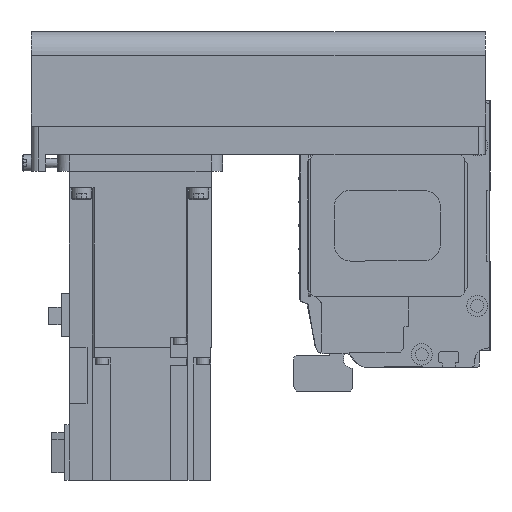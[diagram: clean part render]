
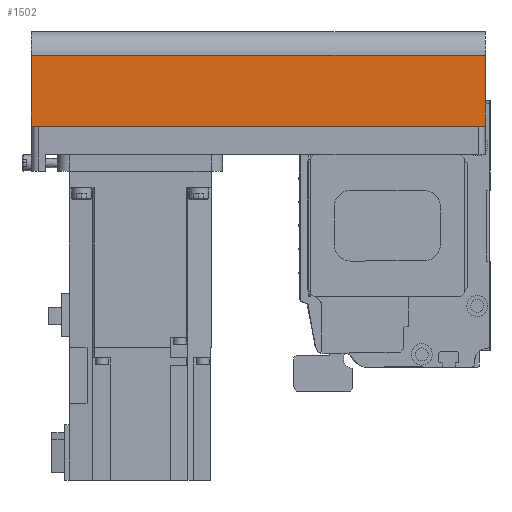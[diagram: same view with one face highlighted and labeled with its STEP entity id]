
A CAD part, left-side view. The second image highlights one B-rep face of the part: STEP entity #1502.
In plain terms, the highlighted planar face has unit normal (-1, 0, 0) as drawn and (0, 1, 0) by its records, which use the part's own axes.
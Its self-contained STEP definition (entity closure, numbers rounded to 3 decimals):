
#1502 = ADVANCED_FACE( '', ( #3426 ), #3427, .T. );
#3426 = FACE_OUTER_BOUND( '', #5890, .T. );
#3427 = PLANE( '', #5891 );
#5890 = EDGE_LOOP( '', ( #9972, #9973, #9974, #9975 ) );
#5891 = AXIS2_PLACEMENT_3D( '', #9976, #9977, #9978 );
#9972 = ORIENTED_EDGE( '', *, *, #15299, .F. );
#9973 = ORIENTED_EDGE( '', *, *, #15300, .F. );
#9974 = ORIENTED_EDGE( '', *, *, #15301, .T. );
#9975 = ORIENTED_EDGE( '', *, *, #14237, .T. );
#9976 = CARTESIAN_POINT( '', ( -192., 40., -42. ) );
#9977 = DIRECTION( '', ( 0., 1., 0. ) );
#9978 = DIRECTION( '', ( 0., 0., 1. ) );
#14237 = EDGE_CURVE( '', #17035, #17036, #17037, .T. );
#15299 = EDGE_CURVE( '', #18735, #17036, #18736, .T. );
#15300 = EDGE_CURVE( '', #18737, #18735, #18738, .T. );
#15301 = EDGE_CURVE( '', #18737, #17035, #18739, .T. );
#17035 = VERTEX_POINT( '', #20969 );
#17036 = VERTEX_POINT( '', #20970 );
#17037 = LINE( '', #20971, #20972 );
#18735 = VERTEX_POINT( '', #23231 );
#18736 = LINE( '', #23232, #23233 );
#18737 = VERTEX_POINT( '', #23234 );
#18738 = LINE( '', #23235, #23236 );
#18739 = LINE( '', #23237, #23238 );
#20969 = CARTESIAN_POINT( '', ( -192., 40., -12.1 ) );
#20970 = CARTESIAN_POINT( '', ( 0., 40., -12.1 ) );
#20971 = CARTESIAN_POINT( '', ( -192., 40., -12.1 ) );
#20972 = VECTOR( '', #25532, 1000. );
#23231 = CARTESIAN_POINT( '', ( 0., 40., -42. ) );
#23232 = CARTESIAN_POINT( '', ( 0., 40., -42. ) );
#23233 = VECTOR( '', #26889, 1000. );
#23234 = CARTESIAN_POINT( '', ( -192., 40., -42. ) );
#23235 = CARTESIAN_POINT( '', ( -192., 40., -42. ) );
#23236 = VECTOR( '', #26890, 1000. );
#23237 = CARTESIAN_POINT( '', ( -192., 40., -42. ) );
#23238 = VECTOR( '', #26891, 1000. );
#25532 = DIRECTION( '', ( 1., 0., 0. ) );
#26889 = DIRECTION( '', ( 0., 0., 1. ) );
#26890 = DIRECTION( '', ( 1., 0., 0. ) );
#26891 = DIRECTION( '', ( 0., 0., 1. ) );
